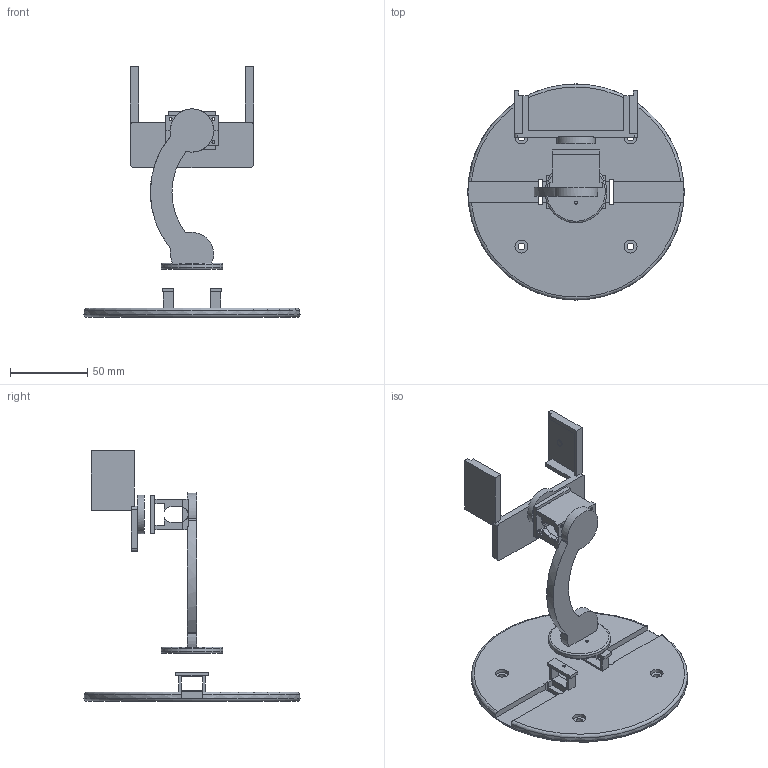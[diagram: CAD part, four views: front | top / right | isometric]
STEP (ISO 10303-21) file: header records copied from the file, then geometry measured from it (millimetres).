
FILE_DESCRIPTION(('Open CASCADE Model'),'2;1');
FILE_NAME('Open CASCADE Shape Model','2026-08-28T20:46:05',('Author'),( 'Open CASCADE'),'Open CASCADE STEP processor 7.8','Open CASCADE 7.8' ,'Unknown');
FILE_SCHEMA(('AUTOMOTIVE_DESIGN { 1 0 10303 214 1 1 1 1 }'));
Length unit declared in the file: millimetre
Products named in the file (5): C270_PanTilt_Printable_Assembly; PanServo_StabilityBase; CurvedArm_SG90_TiltHolder; SG90_RetainingCap; Logitech_C270_ScrewlessCradle
Assembly tree (4 placements, depth 2):
  C270_PanTilt_Printable_Assembly
    PanServo_StabilityBase
    CurvedArm_SG90_TiltHolder
    SG90_RetainingCap
    Logitech_C270_ScrewlessCradle
Bounding box: 140 x 140 x 162.31 mm (x, y, z)
Volume: 129402.3 mm3; surface area: 61604.4 mm2
Topology: 4 solids, 4 shells, 208 faces, 570 edges, 377 vertices
Faces by surface type: plane 150, cylinder 49, torus 5, bspline 4
Full cylindrical faces by diameter (mm): 1.8 x4, 1.9 x2, 2 x8, 2.4 x4, 3.2 x2, 4 x2, 4.4 x4, 8.4 x4, 21 x1, 25 x1, 40 x1, 140 x1
Entity records: 14485 total; most frequent: CARTESIAN_POINT 3371, DIRECTION 1885, ORIENTED_EDGE 1140, PCURVE 1140, DEFINITIONAL_REPRESENTATION 1140, LINE 1079, VECTOR 1079, EDGE_CURVE 570
